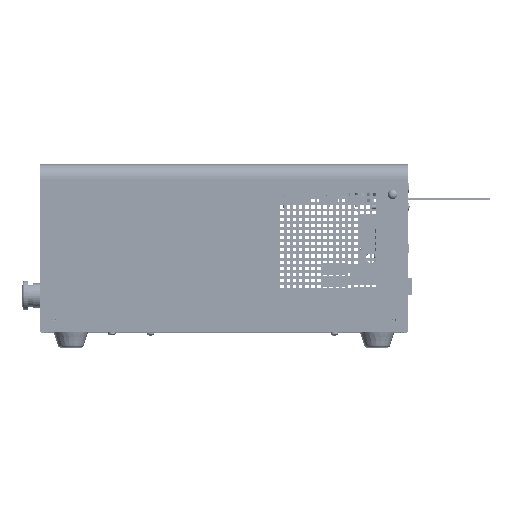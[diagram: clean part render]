
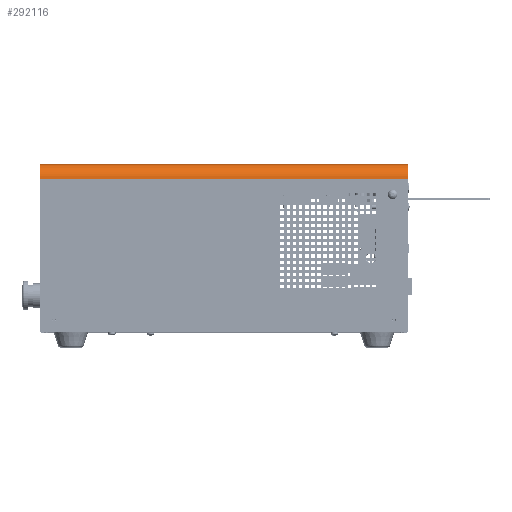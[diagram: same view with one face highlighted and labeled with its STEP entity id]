
A CAD part, top view. The second image highlights one B-rep face of the part: STEP entity #292116.
In plain terms, the highlighted cylindrical face has radius 11.5 mm (diameter 23 mm), a partial arc.
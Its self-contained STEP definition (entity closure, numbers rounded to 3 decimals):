
#25713 = AXIS2_PLACEMENT_3D ( 'NONE', #496066, #496063, #496044 ) ;
#28494 = ORIENTED_EDGE ( 'NONE', *, *, #389882, .F. ) ;
#28501 = ORIENTED_EDGE ( 'NONE', *, *, #390078, .T. ) ;
#28509 = ORIENTED_EDGE ( 'NONE', *, *, #367347, .T. ) ;
#28518 = ORIENTED_EDGE ( 'NONE', *, *, #390062, .T. ) ;
#113444 = LINE ( 'NONE', #270401, #113454 ) ;
#113454 = VECTOR ( 'NONE', #270438, 1000. ) ;
#139503 = DIRECTION ( 'NONE',  ( 1., 0., 0. ) ) ;
#139510 = CARTESIAN_POINT ( 'NONE',  ( 150., 137., 90.5 ) ) ;
#139920 = CARTESIAN_POINT ( 'NONE',  ( 150., 125.5, 90.5 ) ) ;
#139923 = DIRECTION ( 'NONE',  ( -1., 0., 0. ) ) ;
#139926 = DIRECTION ( 'NONE',  ( 0., 0., -1. ) ) ;
#139965 = CARTESIAN_POINT ( 'NONE',  ( -150., 125.5, 90.5 ) ) ;
#139968 = DIRECTION ( 'NONE',  ( 1., 0., 0. ) ) ;
#139971 = DIRECTION ( 'NONE',  ( 0., 0., -1. ) ) ;
#241130 = CARTESIAN_POINT ( 'NONE',  ( 150., 125.5, 102. ) ) ;
#241707 = CARTESIAN_POINT ( 'NONE',  ( -150., 125.5, 102. ) ) ;
#270401 = CARTESIAN_POINT ( 'NONE',  ( 150., 125.5, 102. ) ) ;
#270438 = DIRECTION ( 'NONE',  ( 1., 0., 0. ) ) ;
#271492 = VERTEX_POINT ( 'NONE', #301208 ) ;
#271574 = VERTEX_POINT ( 'NONE', #301269 ) ;
#292116 = ADVANCED_FACE ( 'NONE', ( #502639 ), #502702, .T. ) ;
#301208 = CARTESIAN_POINT ( 'NONE',  ( -150., 137., 90.5 ) ) ;
#301269 = CARTESIAN_POINT ( 'NONE',  ( 150., 137., 90.5 ) ) ;
#367347 = EDGE_CURVE ( 'NONE', #388516, #388371, #113444, .T. ) ;
#388371 = VERTEX_POINT ( 'NONE', #241130 ) ;
#388516 = VERTEX_POINT ( 'NONE', #241707 ) ;
#389882 = EDGE_CURVE ( 'NONE', #271492, #271574, #512948, .T. ) ;
#390062 = EDGE_CURVE ( 'NONE', #388371, #271574, #513156, .T. ) ;
#390078 = EDGE_CURVE ( 'NONE', #271492, #388516, #513121, .T. ) ;
#448728 = EDGE_LOOP ( 'NONE', ( #28494, #28501, #28509, #28518 ) ) ;
#464140 = AXIS2_PLACEMENT_3D ( 'NONE', #139920, #139923, #139926 ) ;
#464147 = AXIS2_PLACEMENT_3D ( 'NONE', #139965, #139968, #139971 ) ;
#496044 = DIRECTION ( 'NONE',  ( 0., 0., -1. ) ) ;
#496063 = DIRECTION ( 'NONE',  ( -1., 0., 0. ) ) ;
#496066 = CARTESIAN_POINT ( 'NONE',  ( 619.779, 125.5, 90.5 ) ) ;
#502639 = FACE_OUTER_BOUND ( 'NONE', #448728, .T. ) ;
#502702 = CYLINDRICAL_SURFACE ( 'NONE', #25713, 11.5 ) ;
#512948 = LINE ( 'NONE', #139510, #512978 ) ;
#512978 = VECTOR ( 'NONE', #139503, 1000. ) ;
#513121 = CIRCLE ( 'NONE', #464147, 11.5 ) ;
#513156 = CIRCLE ( 'NONE', #464140, 11.5 ) ;
